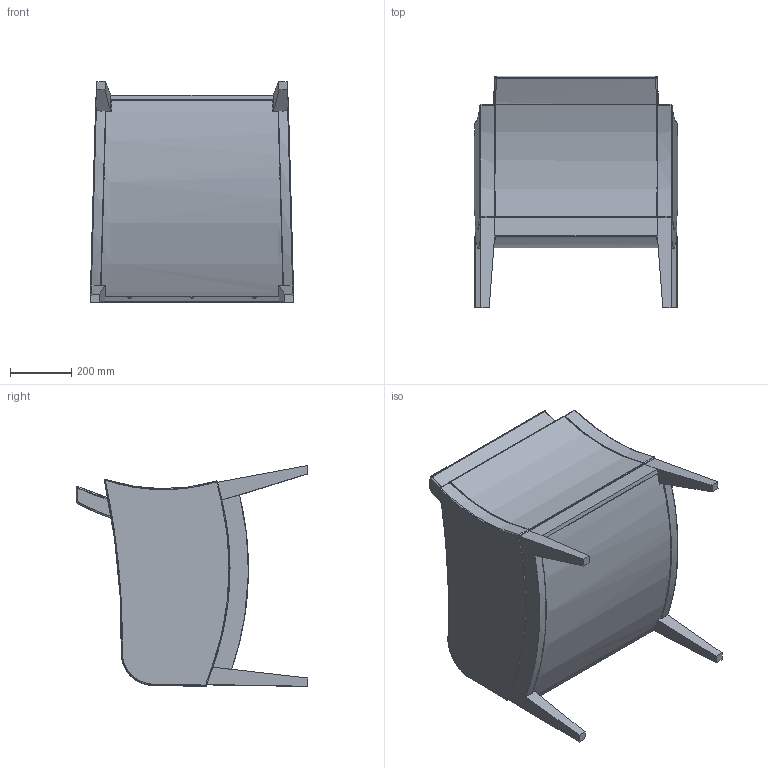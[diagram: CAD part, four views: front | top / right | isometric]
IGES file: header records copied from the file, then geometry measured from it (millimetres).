
Start section: SolidWorks IGES file using analytic representation for surfaces
Global section: file name: D:\DESENHOSSOLIDWORKS\Desenhos Tecnicos\Fabrica2\Cadeiras\Técnicos\ELLEN\3d Surfaces\Ellen M628.IGS; native system: SolidWorks 2012; preprocessor: SolidWorks 2012; author: emanuel; date: 121029.143735; units: millimetre
Bounding box: 664.38 x 755.06 x 720.75 mm (x, y, z)
Surface area: 3225272.7 mm2 (no closed solid volume)
Topology: 0 solids, 0 shells, 162 faces, 2038 edges, 2024 vertices
Faces by surface type: bspline 94, revolution 68
